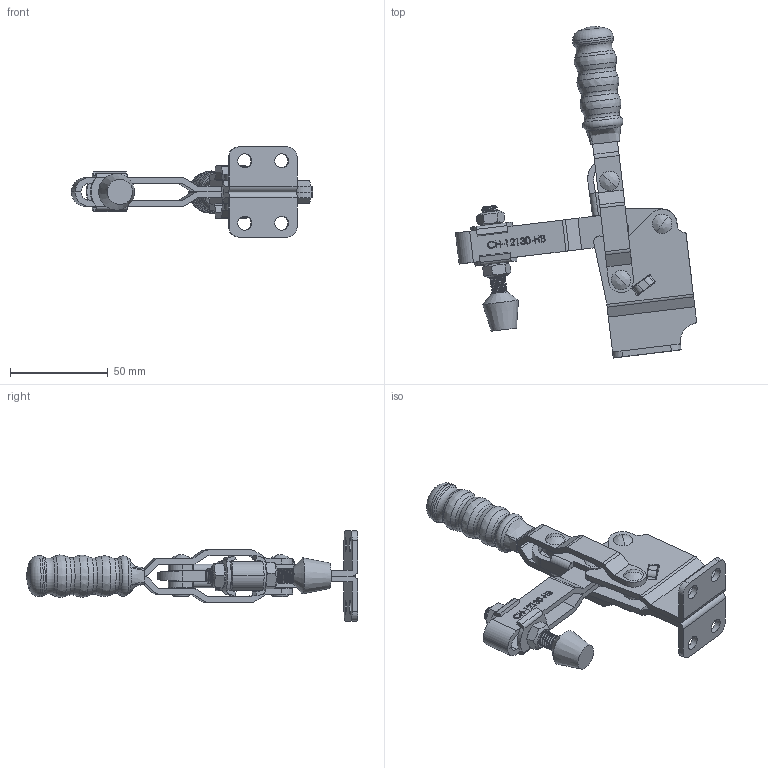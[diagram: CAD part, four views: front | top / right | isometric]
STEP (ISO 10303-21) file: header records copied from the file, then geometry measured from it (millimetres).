
FILE_DESCRIPTION(/* description */ ('STEP AP203'),/* implementation_level */ '2;1');
FILE_NAME(/* name */ 'D:\Vault_2016\Projekty\NASZ KATALOG\CLAMPTEK\STRONA\Vertical toggle clamp\CH-12130-HB\CH-12130-HB_ZAMKNIETY.stp',/* time_stamp */ '2019-01-18T12:39:55+01:00',/* author */ ('CADENGINEERING4'),/* organization */ ('Î¢ÈíÖÐ¹ú'),/* preprocessor_version */ 'ST-DEVELOPER v17.2',/* originating_system */ 'Autodesk Inventor 2019',/* authorisation */ '');
FILE_SCHEMA (('AUTOMOTIVE_DESIGN { 1 0 10303 214 3 1 1 }'));
Products named in the file (12): CH-12130-HB_ZAMKNIETY; CH-12130-HB-02 U-BAR; CH-12130-03 STRAIGHT HANDLE; CH-12130-07; CH-FC-56212 SPINDLE SUPPLIED; CH-12130-HB-01 FLANGED BASE; CH-12130-05; CH-12130-04 CONNECTING-PLATE; CH-12130-06; CH-12130-08; CH-FW-516; CH-FC-56212 Nut
Assembly tree (15 placements, depth 2):
  CH-12130-HB_ZAMKNIETY
    CH-12130-HB-02 U-BAR
    CH-12130-03 STRAIGHT HANDLE
    CH-12130-07
    CH-FC-56212 SPINDLE SUPPLIED
    CH-12130-HB-01 FLANGED BASE
    CH-12130-05
    CH-FC-56212 Nut  x2
    CH-12130-08  x2
    CH-12130-06  x2
    CH-12130-04 CONNECTING-PLATE
    CH-FW-516  x2
Bounding box: 123.16 x 169.55 x 46 mm (x, y, z)
Volume: 67806.3 mm3; surface area: 51463.4 mm2
Topology: 19 solids, 19 shells, 766 faces, 2122 edges, 1422 vertices
Faces by surface type: plane 346, bspline 202, cylinder 163, cone 30, torus 25
Full cylindrical faces by diameter (mm): 2.546 x1, 2.887 x1, 6.3 x6, 6.4 x20, 6.8 x1, 7.2 x4, 7.92 x32, 8.1 x2, 8.4 x2, 10 x1, 20.847 x1
Entity records: 48926 total; most frequent: CARTESIAN_POINT 31339, ORIENTED_EDGE 3936, DIRECTION 2939, EDGE_CURVE 1968, VERTEX_POINT 1326, LINE 1093, VECTOR 1093, AXIS2_PLACEMENT_3D 923
